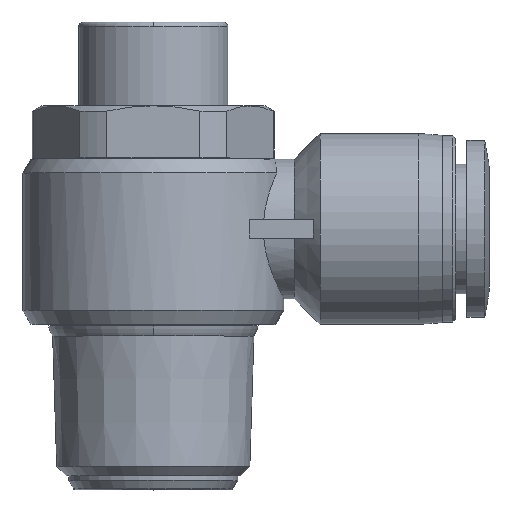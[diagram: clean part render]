
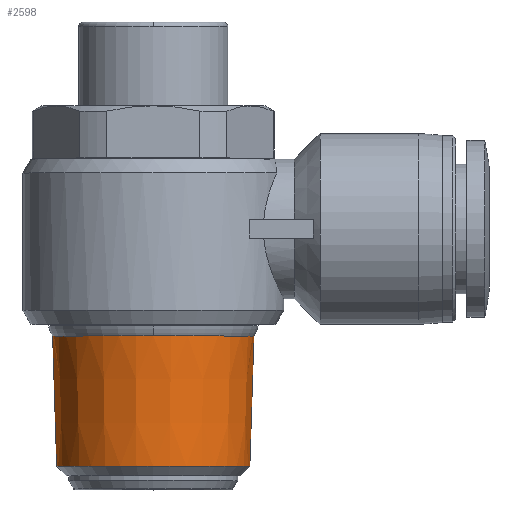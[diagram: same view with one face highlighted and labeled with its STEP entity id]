
A CAD part, top view. The second image highlights one B-rep face of the part: STEP entity #2598.
In plain terms, the highlighted conical face has half-angle 1.79 degrees and reference radius 10.582 mm.
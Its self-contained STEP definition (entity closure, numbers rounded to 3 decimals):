
#2 = AXIS2_PLACEMENT_3D ( 'NONE', #3659, #3305, #500 ) ;
#50 = VERTEX_POINT ( 'NONE', #2762 ) ;
#123 = ORIENTED_EDGE ( 'NONE', *, *, #3898, .F. ) ;
#129 = DIRECTION ( 'NONE',  ( -1., 0., 0. ) ) ;
#147 = DIRECTION ( 'NONE',  ( 0., 1., 0. ) ) ;
#494 = DIRECTION ( 'NONE',  ( -0.031, 1., 0. ) ) ;
#496 = CARTESIAN_POINT ( 'NONE',  ( 10.363, 2.532, 0. ) ) ;
#500 = DIRECTION ( 'NONE',  ( -1., 0., 0. ) ) ;
#504 = AXIS2_PLACEMENT_3D ( 'NONE', #1644, #1383, #2938 ) ;
#649 = AXIS2_PLACEMENT_3D ( 'NONE', #3826, #3520, #1852 ) ;
#693 = VECTOR ( 'NONE', #494, 1000. ) ;
#730 = EDGE_CURVE ( 'NONE', #4054, #2732, #1357, .T. ) ;
#801 = CARTESIAN_POINT ( 'NONE',  ( 0., 16.5, 0. ) ) ;
#1050 = EDGE_LOOP ( 'NONE', ( #2351, #3645, #3223, #4021, #123 ) ) ;
#1172 = EDGE_CURVE ( 'NONE', #2732, #50, #2981, .T. ) ;
#1357 = CIRCLE ( 'NONE', #2, 10.8 ) ;
#1383 = DIRECTION ( 'NONE',  ( 0., 1., 0. ) ) ;
#1419 = LINE ( 'NONE', #1789, #693 ) ;
#1504 = VERTEX_POINT ( 'NONE', #3221 ) ;
#1644 = CARTESIAN_POINT ( 'NONE',  ( 0., 9.516, 0. ) ) ;
#1757 = VERTEX_POINT ( 'NONE', #496 ) ;
#1789 = CARTESIAN_POINT ( 'NONE',  ( -10.582, 9.516, 0. ) ) ;
#1852 = DIRECTION ( 'NONE',  ( -1., 0., 0. ) ) ;
#2161 = CARTESIAN_POINT ( 'NONE',  ( -10.8, 16.5, 0. ) ) ;
#2351 = ORIENTED_EDGE ( 'NONE', *, *, #3525, .T. ) ;
#2509 = DIRECTION ( 'NONE',  ( 0.031, 1., 0. ) ) ;
#2517 = CIRCLE ( 'NONE', #649, 10.363 ) ;
#2598 = ADVANCED_FACE ( 'NONE', ( #3346 ), #3867, .T. ) ;
#2732 = VERTEX_POINT ( 'NONE', #4086 ) ;
#2762 = CARTESIAN_POINT ( 'NONE',  ( 10.8, 16.5, 0. ) ) ;
#2938 = DIRECTION ( 'NONE',  ( -1., 0., 0. ) ) ;
#2981 = CIRCLE ( 'NONE', #3122, 10.8 ) ;
#3122 = AXIS2_PLACEMENT_3D ( 'NONE', #801, #147, #129 ) ;
#3138 = CARTESIAN_POINT ( 'NONE',  ( 10.582, 9.516, 0. ) ) ;
#3221 = CARTESIAN_POINT ( 'NONE',  ( -10.363, 2.532, 0. ) ) ;
#3223 = ORIENTED_EDGE ( 'NONE', *, *, #1172, .F. ) ;
#3305 = DIRECTION ( 'NONE',  ( 0., 1., 0. ) ) ;
#3346 = FACE_OUTER_BOUND ( 'NONE', #1050, .T. ) ;
#3514 = EDGE_CURVE ( 'NONE', #1757, #50, #4161, .T. ) ;
#3520 = DIRECTION ( 'NONE',  ( 0., 1., 0. ) ) ;
#3525 = EDGE_CURVE ( 'NONE', #1504, #1757, #2517, .T. ) ;
#3645 = ORIENTED_EDGE ( 'NONE', *, *, #3514, .T. ) ;
#3659 = CARTESIAN_POINT ( 'NONE',  ( 0., 16.5, 0. ) ) ;
#3746 = VECTOR ( 'NONE', #2509, 1000. ) ;
#3826 = CARTESIAN_POINT ( 'NONE',  ( 0., 2.532, 0. ) ) ;
#3867 = CONICAL_SURFACE ( 'NONE', #504, 10.582, 0.031 ) ;
#3898 = EDGE_CURVE ( 'NONE', #1504, #4054, #1419, .T. ) ;
#4021 = ORIENTED_EDGE ( 'NONE', *, *, #730, .F. ) ;
#4054 = VERTEX_POINT ( 'NONE', #2161 ) ;
#4086 = CARTESIAN_POINT ( 'NONE',  ( 0., 16.5, 10.8 ) ) ;
#4161 = LINE ( 'NONE', #3138, #3746 ) ;
